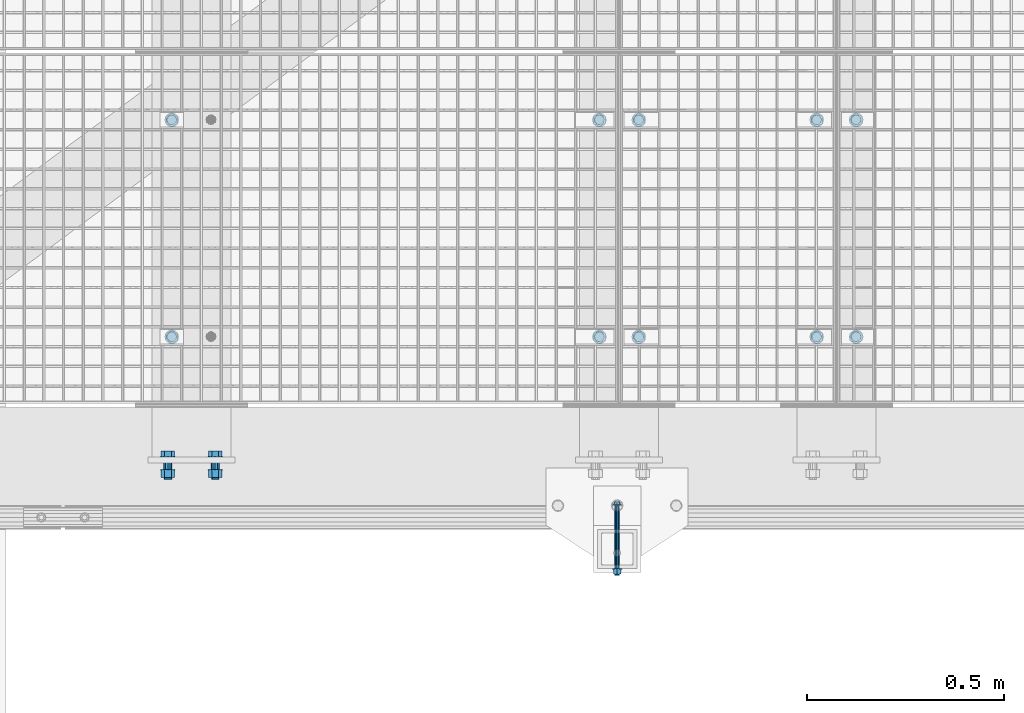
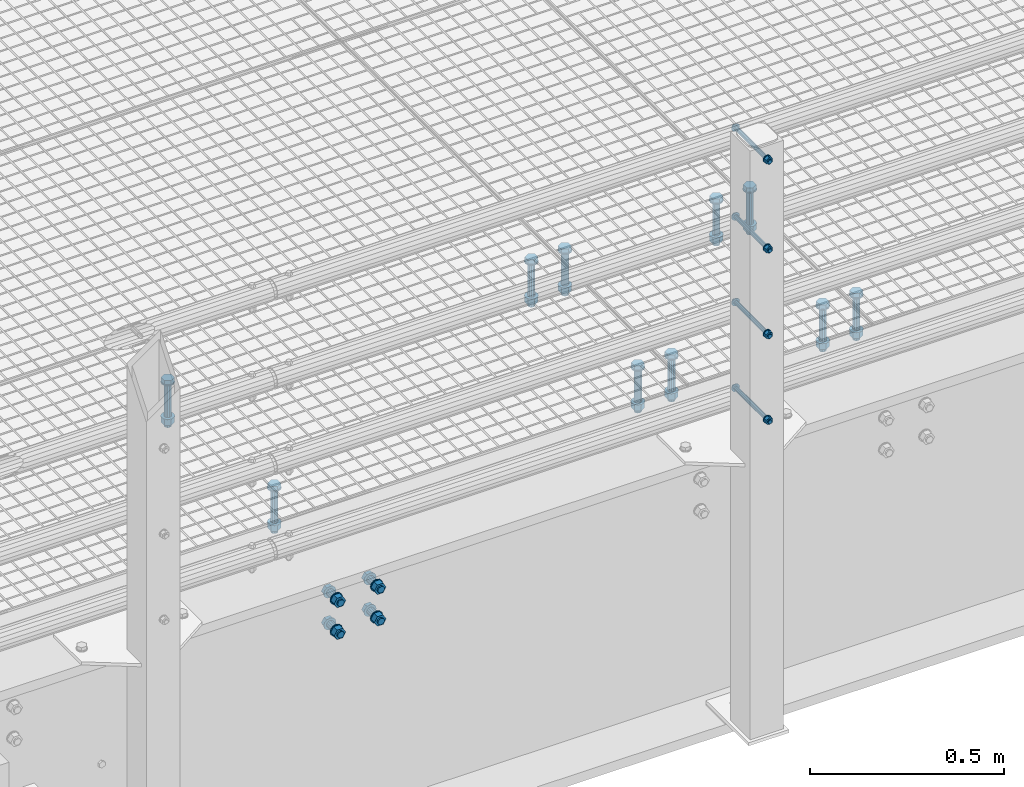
# One storey, part 7 of 1530: 10 mechanical fasteners.
"""IFC2X3 building model written with IfcOpenShell, lengths in millimetres."""

from ifc_helpers import new_model, si_unit, frame, origin_with_axes, place, context, subcontext, project, spatial, faceted_brep, source, transform, mapped, material, type_object, element, save


model = new_model("IFC2X3")

# Units and contexts
model_context = context("Model", 3, precision=1e-05, world=origin_with_axes())
body_context = subcontext(model_context, "Body", "Model", "MODEL_VIEW")
ifc_project = project(units=[si_unit("LENGTHUNIT", "METRE", prefix="MILLI"), si_unit("AREAUNIT", "SQUARE_METRE"), si_unit("VOLUMEUNIT", "CUBIC_METRE"), si_unit("MASSUNIT", "GRAM", prefix="KILO"), si_unit("TIMEUNIT", "SECOND"), si_unit("PLANEANGLEUNIT", "RADIAN"), si_unit("SOLIDANGLEUNIT", "STERADIAN"), si_unit("THERMODYNAMICTEMPERATUREUNIT", "DEGREE_CELSIUS"), si_unit("LUMINOUSINTENSITYUNIT", "LUMEN")], contexts=[model_context])

# Site, building, storey
site_placement = place(None, origin_with_axes())
site = spatial("IfcSite", under=ifc_project, at=site_placement, Name="Brattvåg", CompositionType="ELEMENT")
building_placement = place(site_placement, origin_with_axes())
building = spatial("IfcBuilding", under=site, at=building_placement, Name="Undefined", CompositionType="ELEMENT")
storey_placement = place(building_placement, origin_with_axes())
storey = spatial("IfcBuildingStorey", under=building, at=storey_placement, Name="Undefined", CompositionType="ELEMENT", Elevation=0.0)

# Mechanical fasteners
ifc_material = material(Name="8")
mechanical_fastener_type = type_object("IfcMechanicalFastenerType", Name="Bolt assembly")
shared_shape_1 = source(origin_with_axes(), body_context, "Body", "Brep", [
    faceted_brep([(17.3205080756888, -10.5, 0.0), (8.66025403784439, -10.5, 15.0), (-8.66025403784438, -10.5, 15.0), (-17.3205080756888, -10.5, 2.12115047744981e-15), (-8.66025403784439, -10.5, -15.0), (8.66025403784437, -10.5, -15.0), (8.66025403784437, 2.0, -15.0), (-8.66025403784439, 2.0, -15.0), (-17.3205080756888, 2.0, 2.12115047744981e-15), (-8.66025403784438, 2.0, 15.0), (8.66025403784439, 2.0, 15.0), (17.3205080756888, 2.0, 0.0), (10.0, 2.0, 0.0), (8.66025403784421, 2.0, 5.0000000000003), (4.9999999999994, 2.0, 8.66025403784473), (-1.03633598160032e-12, 2.0, 10.0), (-5.00000000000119, 2.0, 8.6602540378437), (-8.66025403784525, 2.0, 4.99999999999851), (-10.0, 2.0, -2.07267196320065e-12), (-8.66025403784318, 2.0, -5.00000000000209), (-4.99999999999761, 2.0, -8.66025403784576), (3.09790571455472e-12, 2.0, -10.0), (5.00000000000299, 2.0, -8.66025403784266), (8.66025403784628, 2.0, -4.99999999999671), (8.66025403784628, 142.0, -4.99999999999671), (5.00000000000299, 142.0, -8.66025403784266), (3.09790571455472e-12, 142.0, -10.0), (-4.99999999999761, 142.0, -8.66025403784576), (-8.66025403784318, 142.0, -5.00000000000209), (-10.0, 142.0, -2.07267196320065e-12), (-8.66025403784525, 142.0, 4.99999999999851), (-5.00000000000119, 142.0, 8.6602540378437), (-1.03633598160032e-12, 142.0, 10.0), (4.9999999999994, 142.0, 8.66025403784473), (8.66025403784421, 142.0, 5.0000000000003), (10.0, 142.0, 0.0), (18.5, 2.0, 0.0), (16.0214699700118, 2.0, 9.25000000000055), (9.2499999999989, 2.0, 16.0214699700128), (-1.9172215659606e-12, 2.0, 18.5), (-9.25000000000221, 2.0, 16.0214699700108), (-16.0214699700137, 2.0, 9.24999999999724), (-18.5, 2.0, -3.83444313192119e-12), (-16.0214699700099, 2.0, -9.25000000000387), (-9.24999999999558, 2.0, -16.0214699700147), (5.73112557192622e-12, 2.0, -18.5), (9.25000000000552, 2.0, -16.0214699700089), (16.0214699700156, 2.0, -9.24999999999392), (16.0214699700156, 5.0, -9.24999999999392), (9.25000000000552, 5.0, -16.0214699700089), (5.73112557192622e-12, 5.0, -18.5), (-9.24999999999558, 5.0, -16.0214699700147), (-16.0214699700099, 5.0, -9.25000000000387), (-18.5, 5.0, -3.83444313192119e-12), (-16.0214699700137, 5.0, 9.24999999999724), (-9.25000000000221, 5.0, 16.0214699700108), (-1.9172215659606e-12, 5.0, 18.5), (9.2499999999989, 5.0, 16.0214699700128), (16.0214699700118, 5.0, 9.25000000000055), (18.5, 5.0, 0.0), (18.5, 109.998931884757, 0.0), (16.0214699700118, 109.998931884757, 9.25000000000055), (9.2499999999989, 109.998931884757, 16.0214699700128), (-1.9172215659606e-12, 109.998931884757, 18.5), (-9.25000000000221, 109.998931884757, 16.0214699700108), (-16.0214699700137, 109.998931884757, 9.24999999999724), (-18.5, 109.998931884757, -3.83444313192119e-12), (-16.0214699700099, 109.998931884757, -9.25000000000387), (-9.24999999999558, 109.998931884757, -16.0214699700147), (5.73112557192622e-12, 109.998931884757, -18.5), (9.25000000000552, 109.998931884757, -16.0214699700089), (16.0214699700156, 109.998931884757, -9.24999999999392), (16.0214699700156, 112.998931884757, -9.24999999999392), (9.25000000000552, 112.998931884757, -16.0214699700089), (5.73112557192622e-12, 112.998931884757, -18.5), (-9.24999999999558, 112.998931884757, -16.0214699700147), (-16.0214699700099, 112.998931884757, -9.25000000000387), (-18.5, 112.998931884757, -3.83444313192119e-12), (-16.0214699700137, 112.998931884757, 9.24999999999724), (-9.25000000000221, 112.998931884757, 16.0214699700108), (-1.9172215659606e-12, 112.998931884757, 18.5), (9.2499999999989, 112.998931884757, 16.0214699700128), (16.0214699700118, 112.998931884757, 9.25000000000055), (18.5, 112.998931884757, 0.0), (17.3205080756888, 112.998931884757, 0.0), (8.66025403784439, 112.998931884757, 15.0), (-8.66025403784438, 112.998931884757, 15.0), (-17.3205080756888, 112.998931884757, 2.12115047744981e-15), (-8.66025403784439, 112.998931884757, -15.0), (8.66025403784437, 112.998931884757, -15.0), (8.66025403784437, 130.998931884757, -15.0), (-8.66025403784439, 130.998931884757, -15.0), (-17.3205080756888, 130.998931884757, 2.12115047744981e-15), (-8.66025403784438, 130.998931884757, 15.0), (8.66025403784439, 130.998931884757, 15.0), (17.3205080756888, 130.998931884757, 0.0)], [[[0, 1, 2, 3, 4, 5]], [[6, 7, 8, 9, 10, 11]], [[0, 11, 10, 1]], [[1, 10, 9, 2]], [[2, 9, 8, 3]], [[3, 8, 7, 4]], [[4, 7, 6, 5]], [[5, 6, 11, 0]], [[12, 13, 14, 15, 16, 17, 18, 19, 20, 21, 22, 23]], [[24, 25, 26, 27, 28, 29, 30, 31, 32, 33, 34, 35]], [[12, 35, 34, 13]], [[13, 34, 33, 14]], [[14, 33, 32, 15]], [[15, 32, 31, 16]], [[16, 31, 30, 17]], [[17, 30, 29, 18]], [[18, 29, 28, 19]], [[19, 28, 27, 20]], [[20, 27, 26, 21]], [[21, 26, 25, 22]], [[22, 25, 24, 23]], [[23, 24, 35, 12]], [[36, 37, 38, 39, 40, 41, 42, 43, 44, 45, 46, 47]], [[48, 49, 50, 51, 52, 53, 54, 55, 56, 57, 58, 59]], [[36, 59, 58, 37]], [[37, 58, 57, 38]], [[38, 57, 56, 39]], [[39, 56, 55, 40]], [[40, 55, 54, 41]], [[41, 54, 53, 42]], [[42, 53, 52, 43]], [[43, 52, 51, 44]], [[44, 51, 50, 45]], [[45, 50, 49, 46]], [[46, 49, 48, 47]], [[47, 48, 59, 36]], [[60, 61, 62, 63, 64, 65, 66, 67, 68, 69, 70, 71]], [[72, 73, 74, 75, 76, 77, 78, 79, 80, 81, 82, 83]], [[60, 83, 82, 61]], [[61, 82, 81, 62]], [[62, 81, 80, 63]], [[63, 80, 79, 64]], [[64, 79, 78, 65]], [[65, 78, 77, 66]], [[66, 77, 76, 67]], [[67, 76, 75, 68]], [[68, 75, 74, 69]], [[69, 74, 73, 70]], [[70, 73, 72, 71]], [[71, 72, 83, 60]], [[84, 85, 86, 87, 88, 89]], [[90, 91, 92, 93, 94, 95]], [[84, 95, 94, 85]], [[85, 94, 93, 86]], [[86, 93, 92, 87]], [[87, 92, 91, 88]], [[88, 91, 90, 89]], [[89, 90, 95, 84]]]),
])
for number, where, z_axis, x_axis, name in (
    (1, (2956.00477935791, 327.919311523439, -25.0), (-1.0, 1.99999855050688e-09, 0.0), (0.0, 1.0, 0.0), "Bolt assembly"),
    (2, (2856.01522064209, 327.919311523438, -25.0), (-1.0, 1.99999855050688e-09, 0.0), (0.0, 1.0, 0.0), "Bolt assembly"),
    (3, (2405.00477935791, 327.919311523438, -25.0), (-1.0, 1.99999855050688e-09, 0.0), (0.0, 1.0, 0.0), "Bolt assembly"),
    (4, (1221.01192543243, 327.99, -25.0), (-1.0, 1.99999855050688e-09, 0.0), (0.0, 1.0, 0.0), "Bolt assembly"),
    (5, (2305.01487731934, 327.920486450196, -25.0), (-1.0, 1.99999855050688e-09, 0.0), (0.0, 1.0, 0.0), "Bolt assembly"),
):
    element("IfcMechanicalFastener", number, at=place(storey_placement, frame(where, z_axis=z_axis, x_axis=x_axis)), inside=storey, type_object=mechanical_fastener_type, material=ifc_material, Name=name, NominalDiameter=20.0, NominalLength=140.0, context=body_context, shape_type="MappedRepresentation", body=[
        mapped(shared_shape_1, transform((0.0, 0.0, 0.0))),
        mapped(shared_shape_1, transform((549.999999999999, 0.0, 0.0))),
    ])
shared_shape_2 = source(origin_with_axes(), body_context, "Body", "Brep", [
    faceted_brep([(6.49435320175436, -9.99984019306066, 0.0), (4.59220118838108, -9.99984019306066, 4.59220118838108), (3.97664443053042e-16, -9.99984019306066, 6.49435320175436), (-4.59220118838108, -9.99984019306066, 4.59220118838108), (-6.49435320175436, -9.99984019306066, 7.95328886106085e-16), (-4.59220118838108, -9.99984019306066, -4.59220118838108), (-1.19299332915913e-15, -9.99984019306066, -6.49435320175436), (4.59220118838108, -9.99984019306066, -4.59220118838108), (7.34846922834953, -2.49984019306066, -7.34846922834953), (-1.90903542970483e-15, -2.49984019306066, -10.3923048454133), (-7.34846922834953, -2.49984019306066, -7.34846922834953), (-10.3923048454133, -2.49984019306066, 1.27269028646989e-15), (-7.34846922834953, -2.49984019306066, 7.34846922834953), (6.36345143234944e-16, -2.49984019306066, 10.3923048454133), (7.34846922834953, -2.49984019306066, 7.34846922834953), (10.3923048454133, -2.49984019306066, 0.0), (6.0, -2.49984019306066, 0.0), (5.19615242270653, -2.49984019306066, 3.00000000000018), (2.99999999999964, -2.49984019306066, 5.19615242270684), (-6.21801588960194e-13, -2.49984019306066, 6.0), (-3.00000000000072, -2.49984019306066, 5.19615242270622), (-5.19615242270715, -2.49984019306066, 2.9999999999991), (-6.0, -2.49984019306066, -1.24360317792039e-12), (-5.19615242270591, -2.49984019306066, -3.00000000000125), (-2.99999999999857, -2.49984019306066, -5.19615242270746), (1.85874342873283e-12, -2.49984019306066, -6.0), (3.00000000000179, -2.49984019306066, -5.1961524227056), (5.19615242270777, -2.49984019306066, -2.99999999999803), (5.19615242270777, 177.500159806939, -2.99999999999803), (3.00000000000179, 177.500159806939, -5.1961524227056), (1.85874342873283e-12, 177.500159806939, -6.0), (-2.99999999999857, 177.500159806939, -5.19615242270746), (-5.19615242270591, 177.500159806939, -3.00000000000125), (-6.0, 177.500159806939, -1.24360317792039e-12), (-5.19615242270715, 177.500159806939, 2.9999999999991), (-3.00000000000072, 177.500159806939, 5.19615242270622), (-6.21801588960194e-13, 177.500159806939, 6.0), (2.99999999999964, 177.500159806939, 5.19615242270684), (5.19615242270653, 177.500159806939, 3.00000000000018), (6.0, 177.500159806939, 0.0), (12.0, -2.49984019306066, 0.0), (10.3923048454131, -2.49984019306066, 6.00000000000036), (5.99999999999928, -2.49984019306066, 10.3923048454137), (-1.24360317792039e-12, -2.49984019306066, 12.0), (-6.00000000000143, -2.49984019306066, 10.3923048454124), (-10.3923048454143, -2.49984019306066, 5.99999999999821), (-12.0, -2.49984019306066, -2.48720635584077e-12), (-10.3923048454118, -2.49984019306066, -6.00000000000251), (-5.99999999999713, -2.49984019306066, -10.3923048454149), (3.71748685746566e-12, -2.49984019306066, -12.0), (6.00000000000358, -2.49984019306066, -10.3923048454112), (10.3923048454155, -2.49984019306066, -5.99999999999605), (10.3923048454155, 0.000159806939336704, -5.99999999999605), (6.00000000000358, 0.000159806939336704, -10.3923048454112), (3.71748685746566e-12, 0.000159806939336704, -12.0), (-5.99999999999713, 0.000159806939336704, -10.3923048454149), (-10.3923048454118, 0.000159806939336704, -6.00000000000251), (-12.0, 0.000159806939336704, -2.48720635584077e-12), (-10.3923048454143, 0.000159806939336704, 5.99999999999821), (-6.00000000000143, 0.000159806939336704, 10.3923048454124), (-1.24360317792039e-12, 0.000159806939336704, 12.0), (5.99999999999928, 0.000159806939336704, 10.3923048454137), (10.3923048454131, 0.000159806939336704, 6.00000000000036), (12.0, 0.000159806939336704, 0.0), (12.0, 160.299998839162, 0.0), (10.3923048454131, 160.299998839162, 6.00000000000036), (5.99999999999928, 160.299998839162, 10.3923048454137), (-1.24360317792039e-12, 160.299998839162, 12.0), (-6.00000000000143, 160.299998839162, 10.3923048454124), (-10.3923048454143, 160.299998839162, 5.99999999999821), (-12.0, 160.299998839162, -2.48720635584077e-12), (-10.3923048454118, 160.299998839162, -6.00000000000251), (-5.99999999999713, 160.299998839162, -10.3923048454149), (3.71748685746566e-12, 160.299998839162, -12.0), (6.00000000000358, 160.299998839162, -10.3923048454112), (10.3923048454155, 160.299998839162, -5.99999999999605), (10.3923048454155, 162.799998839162, -5.99999999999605), (6.00000000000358, 162.799998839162, -10.3923048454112), (3.71748685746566e-12, 162.799998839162, -12.0), (-5.99999999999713, 162.799998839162, -10.3923048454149), (-10.3923048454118, 162.799998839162, -6.00000000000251), (-12.0, 162.799998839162, -2.48720635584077e-12), (-10.3923048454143, 162.799998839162, 5.99999999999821), (-6.00000000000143, 162.799998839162, 10.3923048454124), (-1.24360317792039e-12, 162.799998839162, 12.0), (5.99999999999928, 162.799998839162, 10.3923048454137), (10.3923048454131, 162.799998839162, 6.00000000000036), (12.0, 162.799998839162, 0.0), (10.9696551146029, 162.799998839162, 0.0), (5.48482755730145, 162.799998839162, 9.5), (-5.48482755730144, 162.799998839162, 9.5), (-10.9696551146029, 162.799998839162, 1.34339530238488e-15), (-5.48482755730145, 162.799998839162, -9.5), (5.48482755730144, 162.799998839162, -9.5), (5.48482755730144, 173.599999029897, -9.5), (-5.48482755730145, 173.599999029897, -9.5), (-10.9696551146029, 173.599999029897, 1.34339530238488e-15), (-5.48482755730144, 173.599999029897, 9.5), (5.48482755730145, 173.599999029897, 9.5), (10.9696551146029, 173.599999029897, 0.0)], [[[0, 1, 2, 3, 4, 5, 6, 7]], [[8, 9, 10, 11, 12, 13, 14, 15]], [[0, 15, 14, 1]], [[1, 14, 13, 2]], [[2, 13, 12, 3]], [[3, 12, 11, 4]], [[4, 11, 10, 5]], [[5, 10, 9, 6]], [[6, 9, 8, 7]], [[7, 8, 15, 0]], [[16, 17, 18, 19, 20, 21, 22, 23, 24, 25, 26, 27]], [[28, 29, 30, 31, 32, 33, 34, 35, 36, 37, 38, 39]], [[16, 39, 38, 17]], [[17, 38, 37, 18]], [[18, 37, 36, 19]], [[19, 36, 35, 20]], [[20, 35, 34, 21]], [[21, 34, 33, 22]], [[22, 33, 32, 23]], [[23, 32, 31, 24]], [[24, 31, 30, 25]], [[25, 30, 29, 26]], [[26, 29, 28, 27]], [[27, 28, 39, 16]], [[40, 41, 42, 43, 44, 45, 46, 47, 48, 49, 50, 51]], [[52, 53, 54, 55, 56, 57, 58, 59, 60, 61, 62, 63]], [[40, 63, 62, 41]], [[41, 62, 61, 42]], [[42, 61, 60, 43]], [[43, 60, 59, 44]], [[44, 59, 58, 45]], [[45, 58, 57, 46]], [[46, 57, 56, 47]], [[47, 56, 55, 48]], [[48, 55, 54, 49]], [[49, 54, 53, 50]], [[50, 53, 52, 51]], [[51, 52, 63, 40]], [[64, 65, 66, 67, 68, 69, 70, 71, 72, 73, 74, 75]], [[76, 77, 78, 79, 80, 81, 82, 83, 84, 85, 86, 87]], [[64, 87, 86, 65]], [[65, 86, 85, 66]], [[66, 85, 84, 67]], [[67, 84, 83, 68]], [[68, 83, 82, 69]], [[69, 82, 81, 70]], [[70, 81, 80, 71]], [[71, 80, 79, 72]], [[72, 79, 78, 73]], [[73, 78, 77, 74]], [[74, 77, 76, 75]], [[75, 76, 87, 64]], [[88, 89, 90, 91, 92, 93]], [[94, 95, 96, 97, 98, 99]], [[88, 99, 98, 89]], [[89, 98, 97, 90]], [[90, 97, 96, 91]], [[91, 96, 95, 92]], [[92, 95, 94, 93]], [[93, 94, 99, 88]]]),
    faceted_brep([(6.5, 0.100159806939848, 0.0), (5.62916512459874, 0.100159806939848, 3.25000000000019), (3.24999999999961, 0.100159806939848, 5.62916512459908), (-6.7361838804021e-13, 0.100159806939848, 6.5), (-3.25000000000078, 0.100159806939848, 5.6291651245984), (-5.62916512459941, 0.100159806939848, 3.24999999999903), (-6.5, 0.100159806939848, -1.34723677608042e-12), (-5.62916512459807, 0.100159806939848, -3.25000000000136), (-3.24999999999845, 0.100159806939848, -5.62916512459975), (2.01363871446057e-12, 0.100159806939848, -6.5), (3.25000000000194, 0.100159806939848, -5.62916512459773), (5.62916512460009, 0.100159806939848, -3.24999999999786), (5.62916512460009, 60.4001552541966, -3.24999999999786), (3.25000000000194, 60.4001552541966, -5.62916512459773), (2.01363871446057e-12, 60.4001552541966, -6.5), (-3.24999999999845, 60.4001552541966, -5.62916512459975), (-5.62916512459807, 60.4001552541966, -3.25000000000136), (-6.5, 60.4001552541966, -1.34723677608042e-12), (-5.62916512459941, 60.4001552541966, 3.24999999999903), (-3.25000000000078, 60.4001552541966, 5.6291651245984), (-6.7361838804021e-13, 60.4001552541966, 6.5), (3.24999999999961, 60.4001552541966, 5.62916512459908), (5.62916512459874, 60.4001552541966, 3.25000000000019), (6.5, 60.4001552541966, 0.0), (6.5, 60.1999988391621, 0.0), (5.62916512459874, 60.1999988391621, 3.25000000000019), (3.24999999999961, 60.1999988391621, 5.62916512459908), (-6.7361838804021e-13, 60.1999988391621, 6.5), (-3.25000000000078, 60.1999988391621, 5.6291651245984), (-5.62916512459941, 60.1999988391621, 3.24999999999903), (-6.5, 60.1999988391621, -1.34723677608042e-12), (-5.62916512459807, 60.1999988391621, -3.25000000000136), (-3.24999999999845, 60.1999988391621, -5.62916512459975), (2.01363871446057e-12, 60.1999988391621, -6.5), (3.25000000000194, 60.1999988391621, -5.62916512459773), (5.62916512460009, 60.1999988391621, -3.24999999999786), (5.62916512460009, 160.299998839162, -3.24999999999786), (3.25000000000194, 160.299998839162, -5.62916512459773), (2.01363871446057e-12, 160.299998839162, -6.5), (-3.24999999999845, 160.299998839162, -5.62916512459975), (-5.62916512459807, 160.299998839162, -3.25000000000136), (-6.5, 160.299998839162, -1.34723677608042e-12), (-5.62916512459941, 160.299998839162, 3.24999999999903), (-3.25000000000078, 160.299998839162, 5.6291651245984), (-6.7361838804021e-13, 160.299998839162, 6.5), (3.24999999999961, 160.299998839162, 5.62916512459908), (5.62916512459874, 160.299998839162, 3.25000000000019), (6.5, 160.299998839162, 0.0)], [[[0, 1, 2, 3, 4, 5, 6, 7, 8, 9, 10, 11]], [[12, 13, 14, 15, 16, 17, 18, 19, 20, 21, 22, 23]], [[0, 23, 22, 1]], [[1, 22, 21, 2]], [[2, 21, 20, 3]], [[3, 20, 19, 4]], [[4, 19, 18, 5]], [[5, 18, 17, 6]], [[6, 17, 16, 7]], [[7, 16, 15, 8]], [[8, 15, 14, 9]], [[9, 14, 13, 10]], [[10, 13, 12, 11]], [[11, 12, 23, 0]], [[24, 25, 26, 27, 28, 29, 30, 31, 32, 33, 34, 35]], [[36, 37, 38, 39, 40, 41, 42, 43, 44, 45, 46, 47]], [[24, 47, 46, 25]], [[25, 46, 45, 26]], [[26, 45, 44, 27]], [[27, 44, 43, 28]], [[28, 43, 42, 29]], [[29, 42, 41, 30]], [[30, 41, 40, 31]], [[31, 40, 39, 32]], [[32, 39, 38, 33]], [[33, 38, 37, 34]], [[34, 37, 36, 35]], [[35, 36, 47, 24]]]),
])
for number, where, z_axis, x_axis, name in (
    (6, (2349.9999999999, -99.6997226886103, 149.550000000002), (-1.0, 1.99999855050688e-09, 0.0), (0.0, 0.0, -1.0), "Bolt assembly"),
    (7, (2349.9999999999, -99.6997226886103, 419.550000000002), (-1.0, 1.99999855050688e-09, 0.0), (0.0, 0.0, -1.0), "Bolt assembly"),
    (8, (2349.9999999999, -99.6997226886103, 689.550000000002), (-1.0, 1.99999855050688e-09, 0.0), (0.0, 0.0, -1.0), "Bolt assembly"),
    (9, (2349.9999999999, -99.6997226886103, 969.550000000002), (-1.0, 1.99999855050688e-09, 0.0), (0.0, 0.0, -1.0), "Bolt assembly"),
):
    element("IfcMechanicalFastener", number, at=place(storey_placement, frame(where, z_axis=z_axis, x_axis=x_axis)), inside=storey, type_object=mechanical_fastener_type, material=ifc_material, Name=name, NominalDiameter=12.0, NominalLength=180.0, context=body_context, shape_type="MappedRepresentation", body=[
        mapped(shared_shape_2, transform((0.0, 0.0, 0.0))),
    ])
shared_shape_3 = source(origin_with_axes(), body_context, "Body", "Brep", [
    faceted_brep([(17.3205080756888, -15.5000000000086, 0.0), (8.66025403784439, -15.5000000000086, 15.0), (-8.66025403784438, -15.5000000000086, 15.0), (-17.3205080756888, -15.5000000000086, 2.12115047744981e-15), (-8.66025403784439, -15.5000000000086, -15.0), (8.66025403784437, -15.5000000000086, -15.0), (8.66025403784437, -3.00000000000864, -15.0), (-8.66025403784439, -3.00000000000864, -15.0), (-17.3205080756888, -3.00000000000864, 2.12115047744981e-15), (-8.66025403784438, -3.00000000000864, 15.0), (8.66025403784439, -3.00000000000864, 15.0), (17.3205080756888, -3.00000000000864, 0.0), (10.0, -3.00000000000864, 0.0), (8.66025403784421, -3.00000000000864, 5.0000000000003), (4.9999999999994, -3.00000000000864, 8.66025403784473), (-1.03633598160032e-12, -3.00000000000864, 10.0), (-5.00000000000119, -3.00000000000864, 8.6602540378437), (-8.66025403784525, -3.00000000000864, 4.99999999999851), (-10.0, -3.00000000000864, -2.07267196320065e-12), (-8.66025403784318, -3.00000000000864, -5.00000000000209), (-4.99999999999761, -3.00000000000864, -8.66025403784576), (3.09790571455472e-12, -3.00000000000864, -10.0), (5.00000000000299, -3.00000000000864, -8.66025403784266), (8.66025403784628, -3.00000000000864, -4.99999999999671), (8.66025403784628, 57.0, -4.99999999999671), (5.00000000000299, 57.0, -8.66025403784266), (3.09790571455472e-12, 57.0, -10.0), (-4.99999999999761, 57.0, -8.66025403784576), (-8.66025403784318, 57.0, -5.00000000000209), (-10.0, 57.0, -2.07267196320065e-12), (-8.66025403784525, 57.0, 4.99999999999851), (-5.00000000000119, 57.0, 8.6602540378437), (-1.03633598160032e-12, 57.0, 10.0), (4.9999999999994, 57.0, 8.66025403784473), (8.66025403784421, 57.0, 5.0000000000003), (10.0, 57.0, 0.0), (18.5, -3.00000000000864, 0.0), (16.0214699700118, -3.00000000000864, 9.25000000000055), (9.2499999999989, -3.00000000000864, 16.0214699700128), (-1.9172215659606e-12, -3.00000000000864, 18.5), (-9.25000000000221, -3.00000000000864, 16.0214699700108), (-16.0214699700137, -3.00000000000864, 9.24999999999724), (-18.5, -3.00000000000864, -3.83444313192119e-12), (-16.0214699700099, -3.00000000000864, -9.25000000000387), (-9.24999999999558, -3.00000000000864, -16.0214699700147), (5.73112557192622e-12, -3.00000000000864, -18.5), (9.25000000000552, -3.00000000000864, -16.0214699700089), (16.0214699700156, -3.00000000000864, -9.24999999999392), (16.0214699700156, -8.64019966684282e-12, -9.24999999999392), (9.25000000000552, -8.64019966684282e-12, -16.0214699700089), (5.73112557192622e-12, -8.64019966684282e-12, -18.5), (-9.24999999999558, -8.64019966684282e-12, -16.0214699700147), (-16.0214699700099, -8.64019966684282e-12, -9.25000000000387), (-18.5, -8.64019966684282e-12, -3.83444313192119e-12), (-16.0214699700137, -8.64019966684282e-12, 9.24999999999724), (-9.25000000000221, -8.64019966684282e-12, 16.0214699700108), (-1.9172215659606e-12, -8.64019966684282e-12, 18.5), (9.2499999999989, -8.64019966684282e-12, 16.0214699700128), (16.0214699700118, -8.64019966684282e-12, 9.25000000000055), (18.5, -8.64019966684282e-12, 0.0), (18.5, 31.0015563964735, 0.0), (16.0214699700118, 31.0015563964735, 9.25000000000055), (9.2499999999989, 31.0015563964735, 16.0214699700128), (-1.9172215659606e-12, 31.0015563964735, 18.5), (-9.25000000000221, 31.0015563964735, 16.0214699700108), (-16.0214699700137, 31.0015563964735, 9.24999999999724), (-18.5, 31.0015563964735, -3.83444313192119e-12), (-16.0214699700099, 31.0015563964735, -9.25000000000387), (-9.24999999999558, 31.0015563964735, -16.0214699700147), (5.73112557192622e-12, 31.0015563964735, -18.5), (9.25000000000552, 31.0015563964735, -16.0214699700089), (16.0214699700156, 31.0015563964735, -9.24999999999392), (16.0214699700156, 34.0015563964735, -9.24999999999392), (9.25000000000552, 34.0015563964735, -16.0214699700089), (5.73112557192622e-12, 34.0015563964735, -18.5), (-9.24999999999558, 34.0015563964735, -16.0214699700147), (-16.0214699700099, 34.0015563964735, -9.25000000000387), (-18.5, 34.0015563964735, -3.83444313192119e-12), (-16.0214699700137, 34.0015563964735, 9.24999999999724), (-9.25000000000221, 34.0015563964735, 16.0214699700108), (-1.9172215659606e-12, 34.0015563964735, 18.5), (9.2499999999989, 34.0015563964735, 16.0214699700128), (16.0214699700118, 34.0015563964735, 9.25000000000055), (18.5, 34.0015563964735, 0.0), (17.3205080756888, 34.0015563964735, 0.0), (8.66025403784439, 34.0015563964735, 15.0), (-8.66025403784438, 34.0015563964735, 15.0), (-17.3205080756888, 34.0015563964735, 2.12115047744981e-15), (-8.66025403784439, 34.0015563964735, -15.0), (8.66025403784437, 34.0015563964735, -15.0), (8.66025403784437, 52.0015563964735, -15.0), (-8.66025403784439, 52.0015563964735, -15.0), (-17.3205080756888, 52.0015563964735, 2.12115047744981e-15), (-8.66025403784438, 52.0015563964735, 15.0), (8.66025403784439, 52.0015563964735, 15.0), (17.3205080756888, 52.0015563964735, 0.0)], [[[0, 1, 2, 3, 4, 5]], [[6, 7, 8, 9, 10, 11]], [[0, 11, 10, 1]], [[1, 10, 9, 2]], [[2, 9, 8, 3]], [[3, 8, 7, 4]], [[4, 7, 6, 5]], [[5, 6, 11, 0]], [[12, 13, 14, 15, 16, 17, 18, 19, 20, 21, 22, 23]], [[24, 25, 26, 27, 28, 29, 30, 31, 32, 33, 34, 35]], [[12, 35, 34, 13]], [[13, 34, 33, 14]], [[14, 33, 32, 15]], [[15, 32, 31, 16]], [[16, 31, 30, 17]], [[17, 30, 29, 18]], [[18, 29, 28, 19]], [[19, 28, 27, 20]], [[20, 27, 26, 21]], [[21, 26, 25, 22]], [[22, 25, 24, 23]], [[23, 24, 35, 12]], [[36, 37, 38, 39, 40, 41, 42, 43, 44, 45, 46, 47]], [[48, 49, 50, 51, 52, 53, 54, 55, 56, 57, 58, 59]], [[36, 59, 58, 37]], [[37, 58, 57, 38]], [[38, 57, 56, 39]], [[39, 56, 55, 40]], [[40, 55, 54, 41]], [[41, 54, 53, 42]], [[42, 53, 52, 43]], [[43, 52, 51, 44]], [[44, 51, 50, 45]], [[45, 50, 49, 46]], [[46, 49, 48, 47]], [[47, 48, 59, 36]], [[60, 61, 62, 63, 64, 65, 66, 67, 68, 69, 70, 71]], [[72, 73, 74, 75, 76, 77, 78, 79, 80, 81, 82, 83]], [[60, 83, 82, 61]], [[61, 82, 81, 62]], [[62, 81, 80, 63]], [[63, 80, 79, 64]], [[64, 79, 78, 65]], [[65, 78, 77, 66]], [[66, 77, 76, 67]], [[67, 76, 75, 68]], [[68, 75, 74, 69]], [[69, 74, 73, 70]], [[70, 73, 72, 71]], [[71, 72, 83, 60]], [[84, 85, 86, 87, 88, 89]], [[90, 91, 92, 93, 94, 95]], [[84, 95, 94, 85]], [[85, 94, 93, 86]], [[86, 93, 92, 87]], [[87, 92, 91, 88]], [[88, 91, 90, 89]], [[89, 90, 95, 84]]]),
    faceted_brep([(11.0, 0.1, 0.0), (9.52627944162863, 0.1, 5.50000000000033), (5.49999999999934, 0.1, 9.5262794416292), (-1.13996957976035e-12, 0.1, 11.0), (-5.50000000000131, 0.1, 9.52627944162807), (-9.52627944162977, 0.1, 5.49999999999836), (-11.0, 0.1, -2.27993915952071e-12), (-9.5262794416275, 0.1, -5.5000000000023), (-5.49999999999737, 0.1, -9.52627944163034), (3.40769628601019e-12, 0.1, -11.0), (5.50000000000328, 0.1, -9.52627944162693), (9.52627944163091, 0.1, -5.49999999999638), (9.52627944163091, 15.1, -5.49999999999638), (5.50000000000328, 15.1, -9.52627944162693), (3.40769628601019e-12, 15.1, -11.0), (-5.49999999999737, 15.1, -9.52627944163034), (-9.5262794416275, 15.1, -5.5000000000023), (-11.0, 15.1, -2.27993915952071e-12), (-9.52627944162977, 15.1, 5.49999999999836), (-5.50000000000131, 15.1, 9.52627944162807), (-1.13996957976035e-12, 15.1, 11.0), (5.49999999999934, 15.1, 9.5262794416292), (9.52627944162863, 15.1, 5.50000000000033), (11.0, 15.1, 0.0), (11.0, 14.9015563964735, 0.0), (9.52627944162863, 14.9015563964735, 5.50000000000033), (5.49999999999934, 14.9015563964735, 9.5262794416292), (-1.13996957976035e-12, 14.9015563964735, 11.0), (-5.50000000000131, 14.9015563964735, 9.52627944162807), (-9.52627944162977, 14.9015563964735, 5.49999999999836), (-11.0, 14.9015563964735, -2.27993915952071e-12), (-9.5262794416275, 14.9015563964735, -5.5000000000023), (-5.49999999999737, 14.9015563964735, -9.52627944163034), (3.40769628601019e-12, 14.9015563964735, -11.0), (5.50000000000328, 14.9015563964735, -9.52627944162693), (9.52627944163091, 14.9015563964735, -5.49999999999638), (9.52627944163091, 31.0015563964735, -5.49999999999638), (5.50000000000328, 31.0015563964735, -9.52627944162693), (3.40769628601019e-12, 31.0015563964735, -11.0), (-5.49999999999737, 31.0015563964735, -9.52627944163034), (-9.5262794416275, 31.0015563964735, -5.5000000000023), (-11.0, 31.0015563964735, -2.27993915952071e-12), (-9.52627944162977, 31.0015563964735, 5.49999999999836), (-5.50000000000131, 31.0015563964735, 9.52627944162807), (-1.13996957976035e-12, 31.0015563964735, 11.0), (5.49999999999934, 31.0015563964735, 9.5262794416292), (9.52627944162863, 31.0015563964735, 5.50000000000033), (11.0, 31.0015563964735, 0.0)], [[[0, 1, 2, 3, 4, 5, 6, 7, 8, 9, 10, 11]], [[12, 13, 14, 15, 16, 17, 18, 19, 20, 21, 22, 23]], [[0, 23, 22, 1]], [[1, 22, 21, 2]], [[2, 21, 20, 3]], [[3, 20, 19, 4]], [[4, 19, 18, 5]], [[5, 18, 17, 6]], [[6, 17, 16, 7]], [[7, 16, 15, 8]], [[8, 15, 14, 9]], [[9, 14, 13, 10]], [[10, 13, 12, 11]], [[11, 12, 23, 0]], [[24, 25, 26, 27, 28, 29, 30, 31, 32, 33, 34, 35]], [[36, 37, 38, 39, 40, 41, 42, 43, 44, 45, 46, 47]], [[24, 47, 46, 25]], [[25, 46, 45, 26]], [[26, 45, 44, 27]], [[27, 44, 43, 28]], [[28, 43, 42, 29]], [[29, 42, 41, 30]], [[30, 41, 40, 31]], [[31, 40, 39, 32]], [[32, 39, 38, 33]], [[33, 38, 37, 34]], [[34, 37, 36, 35]], [[35, 36, 47, 24]]]),
])
mechanical_fastener_placement = place(storey_placement, frame((1331.00196838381, 23.0015563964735, -219.998836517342), z_axis=(0.0, 0.0, 1.0), x_axis=(-1.0, 1.99999855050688e-09, 0.0)))
element("IfcMechanicalFastener", 10, at=mechanical_fastener_placement, inside=storey, type_object=mechanical_fastener_type, material=ifc_material, Name="Bolt assembly", NominalDiameter=20.0, NominalLength=60.0, context=body_context, shape_type="MappedRepresentation", body=[
    mapped(shared_shape_3, transform((0.0, 0.0, -50.0))),
    mapped(shared_shape_3, transform((120.0, 0.0, -50.0))),
    mapped(shared_shape_3, transform((0.0, 0.0, 50.0))),
    mapped(shared_shape_3, transform((120.0, 0.0, 50.0))),
])

save(model, "model.ifc")
